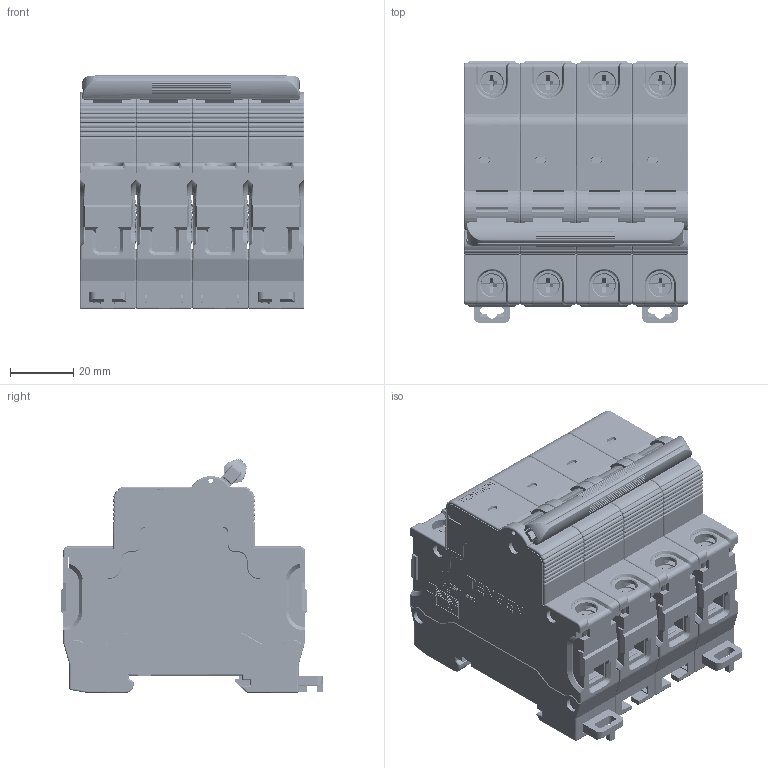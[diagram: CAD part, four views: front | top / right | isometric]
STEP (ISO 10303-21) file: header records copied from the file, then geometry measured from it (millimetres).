
FILE_DESCRIPTION (( 'STEP AP214' ), '1' );
FILE_NAME ('TGH1N-125 4P.STEP', '2025-12-12T13:22:15', ( '' ), ( '' ), 'SwSTEP 2.0', 'SolidWorks 2024', '' );
FILE_SCHEMA (( 'AUTOMOTIVE_DESIGN' ));
Products named in the file (3): TGH1N-125 4P.stp; TGH1N-125 4P; 4P_1_1.stp
Assembly tree (2 placements, depth 3):
  TGH1N-125 4P
    TGH1N-125 4P.stp
      4P_1_1.stp
Bounding box: 71.2 x 83.15 x 74.22 mm (x, y, z)
Volume: 268602.5 mm3; surface area: 83016.1 mm2
Topology: 1 solids, 10 shells, 12069 faces, 32580 edges, 20737 vertices
Faces by surface type: plane 8125, cylinder 2107, bspline 797, torus 736, cone 264, sphere 40
Entity records: 426059 total; most frequent: CARTESIAN_POINT 130601, ORIENTED_EDGE 65092, DIRECTION 56120, EDGE_CURVE 32546, VECTOR 23664, LINE 23664, VERTEX_POINT 20737, AXIS2_PLACEMENT_3D 16228
